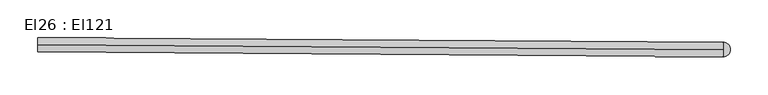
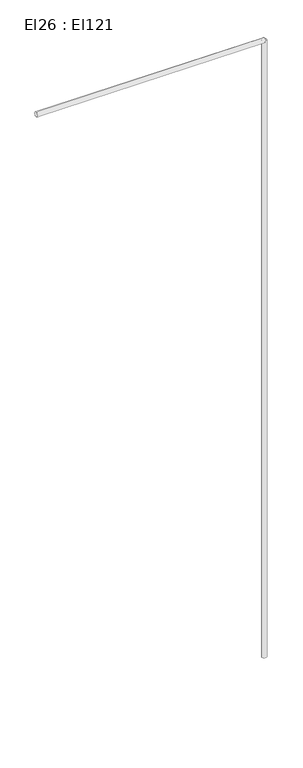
"""IFC4 building model written with IfcOpenShell, lengths in millimetres: cable carrier segment geometry, El26 : El121."""

from ifc_helpers import new_model, si_unit, point, frame, frame_2d, origin, place, context, project, spatial, circle_curve, trimmed, segment, composite_curve, outline, extrude, source, transform, mapped, element, save


def el26_el121_f01eb2d3(model_context):
    return source(origin(), model_context, "Body", "SweptSolid", [
        extrude(outline(composite_curve([segment(trimmed(circle_curve(frame_2d((31444.5086511, 3134.3829445)), 9.5), [point((31435.0086511, 3134.3829445))], [point((31454.0086511, 3134.3829445))], False, "CARTESIAN"), True, "CONTINUOUS"), segment(trimmed(circle_curve(frame_2d((31444.5086511, 3134.3829445)), 9.5), [point((31454.0086511, 3134.3829445))], [point((31435.0086511, 3134.3829445))], False, "CARTESIAN"), True, "CONTINUOUS")], self_intersect=False)), frame((0.0, 0.0, 1830.0), z_axis=(0.0, 0.0, 1.0), x_axis=(1.0, 0.0, 0.0)), (0.0, 0.0, 1.0), 2620.0),
        extrude(outline(composite_curve([segment(trimmed(circle_curve(frame_2d((0.0, -9.5)), 9.5), [point((0.0, -19.0))], [point((0.0, 0.0))], False, "CARTESIAN"), True, "CONTINUOUS"), segment(trimmed(circle_curve(frame_2d((0.0, -9.5)), 9.5), [point((0.0, 0.0))], [point((0.0, -19.0))], False, "CARTESIAN"), True, "CONTINUOUS")], self_intersect=False)), frame((31444.507814, 3134.3829439, 4459.5), z_axis=(-0.9999749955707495, 0.007071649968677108, 0.0), x_axis=(-0.007071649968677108, -0.9999749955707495, 0.0)), (0.0, 0.0, 1.0), 913.323),
    ])


if __name__ == "__main__":
    model = new_model("IFC4")
    model_context = context("Model", 3, world=origin())
    ifc_project = project(units=[si_unit("LENGTHUNIT", "METRE", prefix="MILLI")], contexts=[model_context])
    site = spatial("IfcSite", under=ifc_project)
    building = spatial("IfcBuilding", under=site)
    placement = place(None, origin())
    el26_el121_shape = el26_el121_f01eb2d3(model_context)
    element("IfcCableCarrierSegment", 1, ObjectType="El26 : El121", at=placement, inside=building, context=model_context, shape_type="MappedRepresentation", body=[
        mapped(el26_el121_shape, transform((0.0, 0.0, 0.0), x_axis=(1.0, 0.0, 0.0), y_axis=(0.0, 1.0, 0.0), z_axis=(0.0, 0.0, 1.0))),
    ])
    save(model, "model.ifc")
